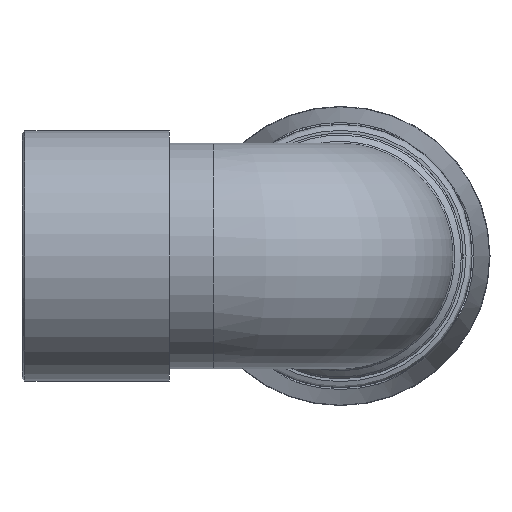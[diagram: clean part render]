
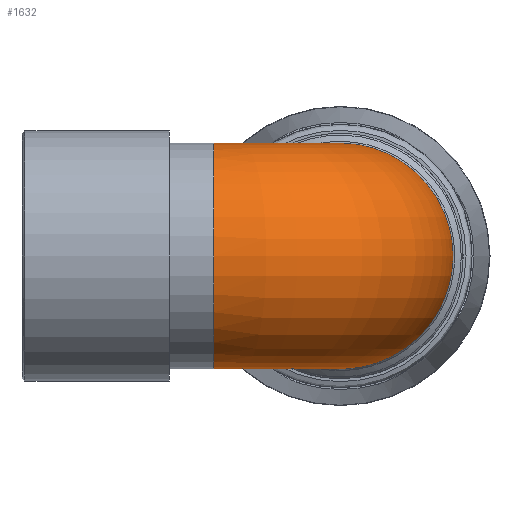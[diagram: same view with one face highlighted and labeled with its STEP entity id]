
A CAD part, left-side view. The second image highlights one B-rep face of the part: STEP entity #1632.
In plain terms, the highlighted toroidal (fillet/blend) face has major radius 19.868 mm and minor radius 17.72 mm.
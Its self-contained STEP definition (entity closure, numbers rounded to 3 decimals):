
#17=TOROIDAL_SURFACE('',#1782,19.868,17.72);
#186=B_SPLINE_CURVE_WITH_KNOTS('',3,(#2829,#2830,#2831,#2832,#2833,#2834,
#2835,#2836,#2837,#2838,#2839,#2840,#2841,#2842,#2843,#2844,#2845,#2846,
#2847,#2848,#2849,#2850),.UNSPECIFIED.,.T.,.F.,(4,1,1,1,1,1,1,1,1,1,1,1,
1,1,1,1,1,1,1,4),(-3.142,-2.917,-2.693,
-2.468,-2.244,-1.795,-1.346,
-0.898,-0.449,-0.15,0.15,
0.449,0.748,1.346,1.795,2.244,
2.468,2.693,2.917,3.142),
 .UNSPECIFIED.);
#365=FACE_BOUND('',#518,.T.);
#395=FACE_OUTER_BOUND('',#517,.T.);
#517=EDGE_LOOP('',(#1186));
#518=EDGE_LOOP('',(#1187));
#664=CIRCLE('',#1777,17.72);
#757=VERTEX_POINT('',#2827);
#761=VERTEX_POINT('',#2861);
#921=EDGE_CURVE('',#757,#757,#186,.T.);
#925=EDGE_CURVE('',#761,#761,#664,.T.);
#1186=ORIENTED_EDGE('',*,*,#921,.F.);
#1187=ORIENTED_EDGE('',*,*,#925,.T.);
#1632=ADVANCED_FACE('',(#395,#365),#17,.T.);
#1777=AXIS2_PLACEMENT_3D('',#2862,#2030,#2031);
#1782=AXIS2_PLACEMENT_3D('',#2870,#2040,#2041);
#2030=DIRECTION('center_axis',(0.,-1.,0.));
#2031=DIRECTION('ref_axis',(-1.,0.,0.));
#2040=DIRECTION('center_axis',(0.,0.,1.));
#2041=DIRECTION('ref_axis',(1.,0.,0.));
#2827=CARTESIAN_POINT('',(17.773,19.395,0.));
#2829=CARTESIAN_POINT('Ctrl Pts',(17.77,19.396,0.));
#2830=CARTESIAN_POINT('Ctrl Pts',(17.77,19.396,1.33));
#2831=CARTESIAN_POINT('Ctrl Pts',(17.652,18.544,3.991));
#2832=CARTESIAN_POINT('Ctrl Pts',(17.743,16.713,7.681));
#2833=CARTESIAN_POINT('Ctrl Pts',(17.815,14.4,11.034));
#2834=CARTESIAN_POINT('Ctrl Pts',(17.884,10.537,14.805));
#2835=CARTESIAN_POINT('Ctrl Pts',(17.918,4.392,17.824));
#2836=CARTESIAN_POINT('Ctrl Pts',(17.94,-3.836,17.909));
#2837=CARTESIAN_POINT('Ctrl Pts',(17.948,-11.275,14.412));
#2838=CARTESIAN_POINT('Ctrl Pts',(17.952,-15.867,8.723));
#2839=CARTESIAN_POINT('Ctrl Pts',(17.954,-17.737,2.703));
#2840=CARTESIAN_POINT('Ctrl Pts',(17.954,-17.74,-2.704));
#2841=CARTESIAN_POINT('Ctrl Pts',(17.953,-16.128,-7.857));
#2842=CARTESIAN_POINT('Ctrl Pts',(17.949,-12.047,-13.808));
#2843=CARTESIAN_POINT('Ctrl Pts',(17.941,-4.755,-17.928));
#2844=CARTESIAN_POINT('Ctrl Pts',(17.919,4.394,-17.819));
#2845=CARTESIAN_POINT('Ctrl Pts',(17.884,10.536,-14.807));
#2846=CARTESIAN_POINT('Ctrl Pts',(17.815,14.401,-11.034));
#2847=CARTESIAN_POINT('Ctrl Pts',(17.743,16.713,-7.682));
#2848=CARTESIAN_POINT('Ctrl Pts',(17.652,18.544,-3.991));
#2849=CARTESIAN_POINT('Ctrl Pts',(17.77,19.396,-1.33));
#2850=CARTESIAN_POINT('Ctrl Pts',(17.77,19.396,0.));
#2861=CARTESIAN_POINT('',(17.72,19.868,0.));
#2862=CARTESIAN_POINT('Origin',(0.,19.868,0.));
#2870=CARTESIAN_POINT('Origin',(19.868,19.868,0.));
